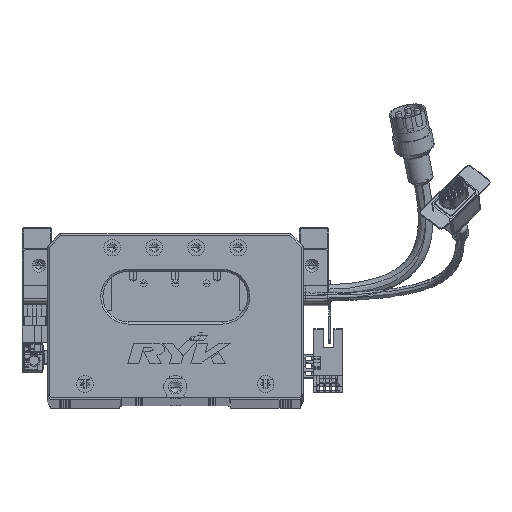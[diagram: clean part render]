
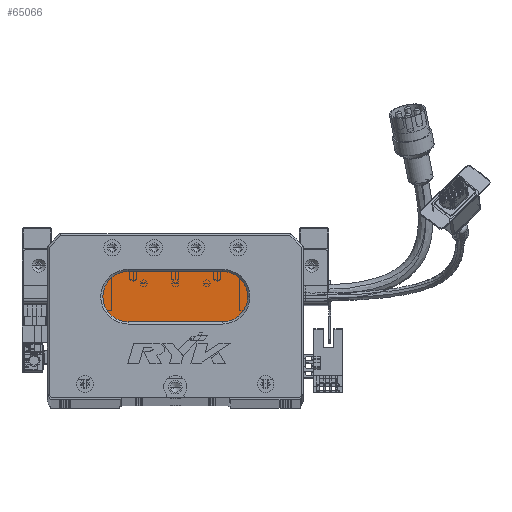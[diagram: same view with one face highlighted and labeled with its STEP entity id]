
A CAD part, top view. The second image highlights one B-rep face of the part: STEP entity #65066.
In plain terms, the highlighted planar face has unit normal (0, 0, 1) as drawn and (0, 0, -1) by its records, which use the part's own axes.
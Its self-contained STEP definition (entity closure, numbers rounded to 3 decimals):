
#1509 = CARTESIAN_POINT ( 'NONE',  ( 83.5, 60., 13. ) ) ;
#5052 = VERTEX_POINT ( 'NONE', #37379 ) ;
#8942 = EDGE_CURVE ( 'NONE', #117626, #103981, #49879, .T. ) ;
#15147 = EDGE_LOOP ( 'NONE', ( #95783, #42353, #61907, #70921, #52955 ) ) ;
#19057 = EDGE_CURVE ( 'NONE', #30150, #5052, #80316, .T. ) ;
#24487 = CARTESIAN_POINT ( 'NONE',  ( 83.5, 48., 13. ) ) ;
#25700 = AXIS2_PLACEMENT_3D ( 'NONE', #24487, #78185, #51491 ) ;
#26567 = CIRCLE ( 'NONE', #113504, 12. ) ;
#26615 = AXIS2_PLACEMENT_3D ( 'NONE', #76368, #85574, #57677 ) ;
#30150 = VERTEX_POINT ( 'NONE', #66955 ) ;
#31900 = VECTOR ( 'NONE', #99724, 1000. ) ;
#34015 = DIRECTION ( 'NONE',  ( -1., 0., 0. ) ) ;
#35687 = CARTESIAN_POINT ( 'NONE',  ( 26.5, 48., 13. ) ) ;
#37379 = CARTESIAN_POINT ( 'NONE',  ( 38.5, 36., 13. ) ) ;
#37886 = AXIS2_PLACEMENT_3D ( 'NONE', #113782, #113397, #95968 ) ;
#39571 = CARTESIAN_POINT ( 'NONE',  ( 83.5, 60., 13. ) ) ;
#42353 = ORIENTED_EDGE ( 'NONE', *, *, #19057, .T. ) ;
#49879 = LINE ( 'NONE', #39571, #95479 ) ;
#51491 = DIRECTION ( 'NONE',  ( -1., 0., 0. ) ) ;
#52955 = ORIENTED_EDGE ( 'NONE', *, *, #8942, .T. ) ;
#57677 = DIRECTION ( 'NONE',  ( -1., 0., 0. ) ) ;
#58033 = CIRCLE ( 'NONE', #37886, 12. ) ;
#61907 = ORIENTED_EDGE ( 'NONE', *, *, #87965, .T. ) ;
#65066 = ADVANCED_FACE ( 'NONE', ( #110142 ), #78962, .T. ) ;
#66955 = CARTESIAN_POINT ( 'NONE',  ( 83.5, 36., 13. ) ) ;
#70921 = ORIENTED_EDGE ( 'NONE', *, *, #76012, .T. ) ;
#71416 = CARTESIAN_POINT ( 'NONE',  ( 83.5, 36., 13. ) ) ;
#75155 = VERTEX_POINT ( 'NONE', #35687 ) ;
#76012 = EDGE_CURVE ( 'NONE', #75155, #117626, #58033, .T. ) ;
#76368 = CARTESIAN_POINT ( 'NONE',  ( 38.5, 48., 13. ) ) ;
#78185 = DIRECTION ( 'NONE',  ( 0., 0., -1. ) ) ;
#78962 = PLANE ( 'NONE',  #25700 ) ;
#80316 = LINE ( 'NONE', #71416, #31900 ) ;
#83302 = CARTESIAN_POINT ( 'NONE',  ( 38.5, 60., 13. ) ) ;
#85574 = DIRECTION ( 'NONE',  ( 0., 0., -1. ) ) ;
#87965 = EDGE_CURVE ( 'NONE', #5052, #75155, #110620, .T. ) ;
#88575 = CARTESIAN_POINT ( 'NONE',  ( 83.5, 48., 13. ) ) ;
#95479 = VECTOR ( 'NONE', #103266, 1000. ) ;
#95783 = ORIENTED_EDGE ( 'NONE', *, *, #99082, .T. ) ;
#95968 = DIRECTION ( 'NONE',  ( -1., 0., 0. ) ) ;
#96151 = DIRECTION ( 'NONE',  ( 0., 0., -1. ) ) ;
#99082 = EDGE_CURVE ( 'NONE', #103981, #30150, #26567, .T. ) ;
#99724 = DIRECTION ( 'NONE',  ( -1., 0., 0. ) ) ;
#103266 = DIRECTION ( 'NONE',  ( 1., 0., 0. ) ) ;
#103981 = VERTEX_POINT ( 'NONE', #1509 ) ;
#110142 = FACE_OUTER_BOUND ( 'NONE', #15147, .T. ) ;
#110620 = CIRCLE ( 'NONE', #26615, 12. ) ;
#113397 = DIRECTION ( 'NONE',  ( 0., 0., -1. ) ) ;
#113504 = AXIS2_PLACEMENT_3D ( 'NONE', #88575, #96151, #34015 ) ;
#113782 = CARTESIAN_POINT ( 'NONE',  ( 38.5, 48., 13. ) ) ;
#117626 = VERTEX_POINT ( 'NONE', #83302 ) ;
